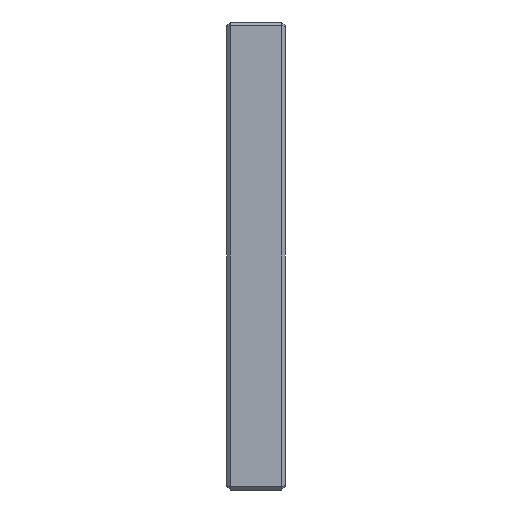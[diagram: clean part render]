
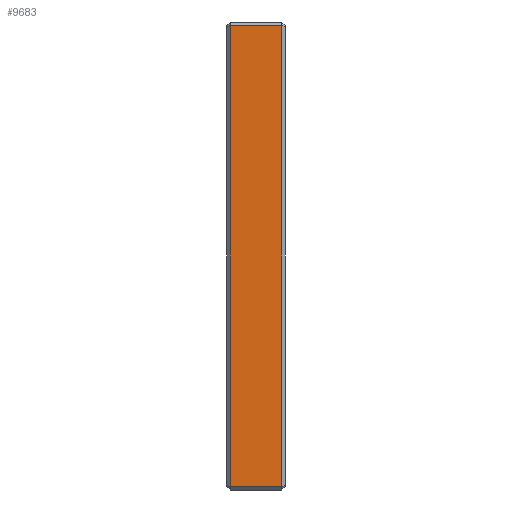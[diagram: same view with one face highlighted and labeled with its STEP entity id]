
A CAD part, left-side view. The second image highlights one B-rep face of the part: STEP entity #9683.
In plain terms, the highlighted planar face has unit normal (-1, 0, 0).
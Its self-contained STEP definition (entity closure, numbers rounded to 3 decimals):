
#2481=DIRECTION('',(0.,0.,1.));
#2482=VECTOR('',#2481,394.);
#2483=CARTESIAN_POINT('',(-300.,22.,-197.));
#2484=LINE('',#2483,#2482);
#2485=DIRECTION('',(0.,-1.,0.));
#2486=VECTOR('',#2485,44.);
#2487=CARTESIAN_POINT('',(-300.,22.,197.));
#2488=LINE('',#2487,#2486);
#2489=DIRECTION('',(0.,0.,-1.));
#2490=VECTOR('',#2489,394.);
#2491=CARTESIAN_POINT('',(-300.,-22.,197.));
#2492=LINE('',#2491,#2490);
#2493=DIRECTION('',(0.,-1.,0.));
#2494=VECTOR('',#2493,44.);
#2495=CARTESIAN_POINT('',(-300.,22.,-197.));
#2496=LINE('',#2495,#2494);
#6493=CARTESIAN_POINT('',(-300.,22.,197.));
#6495=VERTEX_POINT('',#6493);
#6517=CARTESIAN_POINT('',(-300.,22.,-197.));
#6518=VERTEX_POINT('',#6517);
#6525=CARTESIAN_POINT('',(-300.,-22.,-197.));
#6527=VERTEX_POINT('',#6525);
#6549=CARTESIAN_POINT('',(-300.,-22.,197.));
#6550=VERTEX_POINT('',#6549);
#9670=CARTESIAN_POINT('',(-300.,-25.,-200.));
#9671=DIRECTION('',(-1.,0.,0.));
#9672=DIRECTION('',(0.,0.,1.));
#9673=AXIS2_PLACEMENT_3D('',#9670,#9671,#9672);
#9674=PLANE('',#9673);
#9675=ORIENTED_EDGE('',*,*,#9662,.T.);
#9677=ORIENTED_EDGE('',*,*,#9676,.T.);
#9679=ORIENTED_EDGE('',*,*,#9678,.T.);
#9680=ORIENTED_EDGE('',*,*,#9636,.F.);
#9681=EDGE_LOOP('',(#9675,#9677,#9679,#9680));
#9682=FACE_OUTER_BOUND('',#9681,.F.);
#9683=ADVANCED_FACE('',(#9682),#9674,.T.);
#9636=EDGE_CURVE('',#6518,#6527,#2496,.T.);
#9662=EDGE_CURVE('',#6518,#6495,#2484,.T.);
#9676=EDGE_CURVE('',#6495,#6550,#2488,.T.);
#9678=EDGE_CURVE('',#6550,#6527,#2492,.T.);
